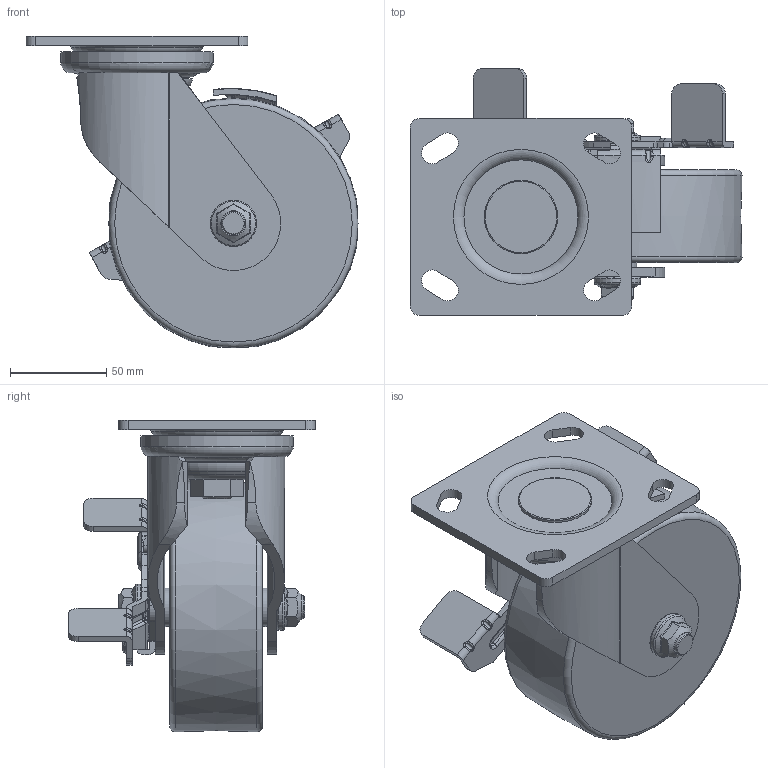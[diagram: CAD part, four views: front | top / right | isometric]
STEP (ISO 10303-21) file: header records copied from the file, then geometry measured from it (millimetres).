
FILE_DESCRIPTION(/* description */ (''),/* implementation_level */ '2;1');
FILE_NAME(/* name */ 'PM-130-BSF-W48.step',/* time_stamp */ '2026-01-27T08:45:19+09:00',/* author */ (''),/* organization */ (''),/* preprocessor_version */ 'ST-DEVELOPER v20.1',/* originating_system */ 'Autodesk Translation Framework v14.24.0.0',/* authorisation */ '');
FILE_SCHEMA (('AUTOMOTIVE_DESIGN { 1 0 10303 214 3 1 1 }'));
Length unit declared in the file: millimetre
Products named in the file (2): PM-130-BSF-MCD; SF PLATE
Assembly tree (1 placements, depth 2):
  PM-130-BSF-MCD
    SF PLATE
Bounding box: 172.05 x 128 x 161.56 mm (x, y, z)
Volume: 880837.4 mm3; surface area: 131882.6 mm2
Topology: 1 solids, 1 shells, 569 faces, 1456 edges, 877 vertices
Faces by surface type: cylinder 200, plane 159, bspline 127, torus 60, sphere 16, cone 7
Full cylindrical faces by diameter (mm): 12 x1, 16 x1, 18 x1, 20 x2, 24 x2, 38 x1, 79 x1
Entity records: 25375 total; most frequent: CARTESIAN_POINT 11961, ORIENTED_EDGE 2860, DIRECTION 2775, EDGE_CURVE 1430, AXIS2_PLACEMENT_3D 1105, VERTEX_POINT 877, EDGE_LOOP 604, FACE_OUTER_BOUND 569
